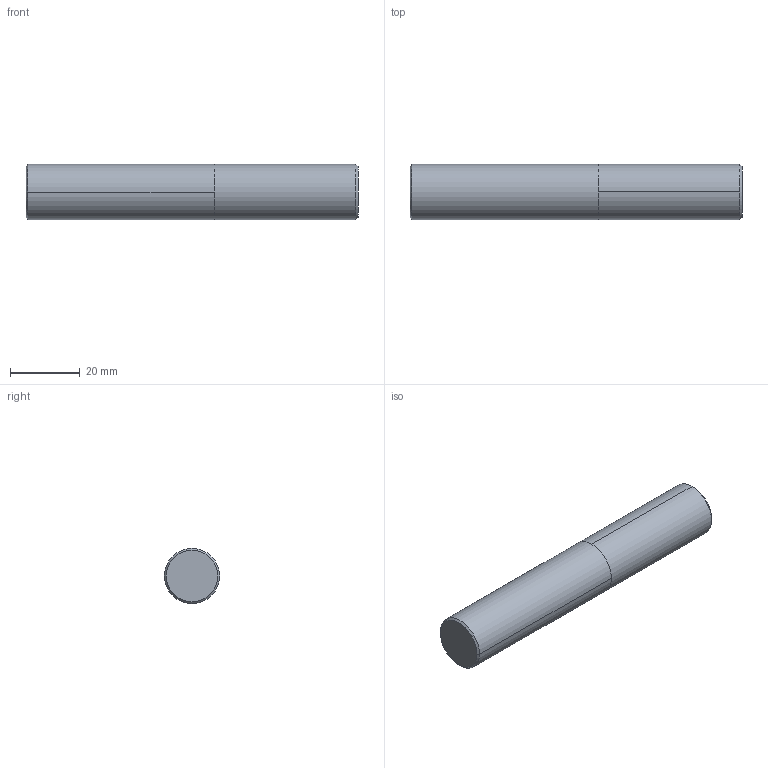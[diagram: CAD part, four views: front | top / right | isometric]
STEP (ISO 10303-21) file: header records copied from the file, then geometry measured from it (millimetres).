
FILE_DESCRIPTION (( 'STEP AP214' ), '1' );
FILE_NAME ('E2170040.STEP', '2018-08-08T06:44:48', ( 'USER' ), ( '' ), 'SwSTEP 2.0', 'SolidWorks 2014', '' );
FILE_SCHEMA (( 'AUTOMOTIVE_DESIGN' ));
Length unit declared in the file: millimetre
Products named in the file (1): E2170040
Bounding box: 95.25 x 15.88 x 15.88 mm (x, y, z)
Volume: 18837.9 mm3; surface area: 5508.9 mm2
Topology: 2 solids, 2 shells, 12 faces, 20 edges, 12 vertices
Faces by surface type: cylinder 4, cone 4, plane 4
Entity records: 393 total; most frequent: DIRECTION 58, CARTESIAN_POINT 45, ORIENTED_EDGE 40, AXIS2_PLACEMENT_3D 25, EDGE_CURVE 20, FACE_OUTER_BOUND 12, EDGE_LOOP 12, VERTEX_POINT 12
